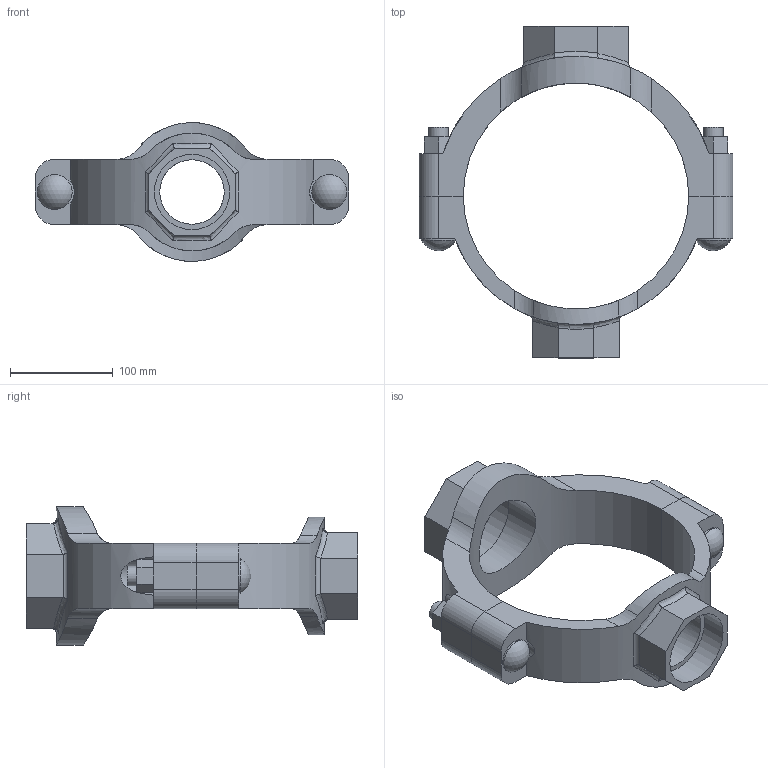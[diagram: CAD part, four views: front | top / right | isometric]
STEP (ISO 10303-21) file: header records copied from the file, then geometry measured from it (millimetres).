
FILE_DESCRIPTION(/* description */ ('VIC MECH-T BRANCH OUTLET CROSS STYLE 920N (THD)','CAx-IF Rec.Pracs.---Representation and Presentation of Product Manufacturing Information (PMI)---4.0---2014-10-13'),/* implementation_level */ '2;1');
FILE_NAME(/* name */ 'C:\Users\Vjadhav\AppData\Roaming\Autodesk\ApplicationPlugins\Back Up\Victaulic_IPS_Mechanical-Cross Outlet_Style 920N (FPT)\Victaulic_IPS_Mechanical-Cross Outlet_08.0x03.0x02.5 (200x80x65).stp',/* time_stamp */ '2020-08-06T19:01:08+06:00',/* author */ ('Vjadhav'),/* organization */ ('Victaulic'),/* preprocessor_version */ 'ST-DEVELOPER v17.2',/* originating_system */ 'Autodesk Inventor 2019',/* authorisation */ '');
FILE_SCHEMA (('AP242_MANAGED_MODEL_BASED_3D_ENGINEERING_MIM_LF { 1 0 10303 442 1 1 4 }'));
Length unit declared in the file: inch
Products named in the file (3): 920NT-08.0x03.0x02.5; 920T-08.0x03.0; 920T-08.0x02.5
Assembly tree (2 placements, depth 2):
  920NT-08.0x03.0x02.5
    920T-08.0x03.0
    920T-08.0x02.5
Bounding box: 304.8 x 322.33 x 134.87 mm (x, y, z)
Volume: 1419044.2 mm3; surface area: 231865.2 mm2
Topology: 2 solids, 2 shells, 132 faces, 350 edges, 236 vertices
Faces by surface type: plane 68, cylinder 50, bspline 8, torus 4, sphere 2
Full cylindrical faces by diameter (mm): 19.05 x4, 33.843 x2, 62.738 x1, 73.025 x1, 77.787 x1, 88.9 x1
Entity records: 5284 total; most frequent: CARTESIAN_POINT 1771, ORIENTED_EDGE 700, DIRECTION 648, EDGE_CURVE 350, VERTEX_POINT 236, AXIS2_PLACEMENT_3D 231, LINE 186, VECTOR 186
